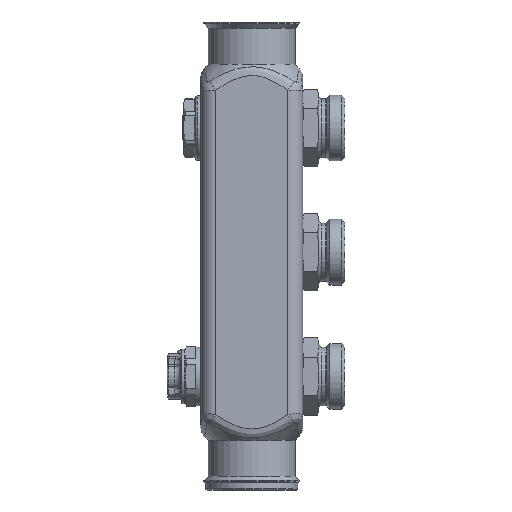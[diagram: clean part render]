
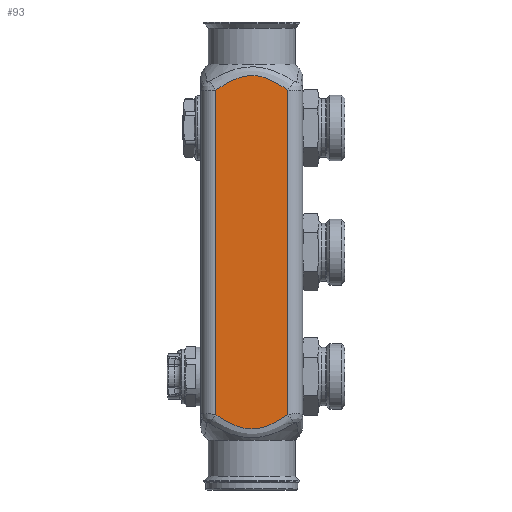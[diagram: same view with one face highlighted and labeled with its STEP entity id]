
A CAD part, left-side view. The second image highlights one B-rep face of the part: STEP entity #93.
In plain terms, the highlighted planar face has unit normal (-1, 0, 0).
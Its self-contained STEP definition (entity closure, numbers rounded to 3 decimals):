
#93=ADVANCED_FACE('',(#1398),#1400,.T.);
#1398=FACE_BOUND('',#1399,.T.);
#1399=EDGE_LOOP('',(#10756,#10757,#10758,#10759));
#1400=PLANE('',#1401);
#1401=AXIS2_PLACEMENT_3D('',#1402,#1403,#1404);
#1402=CARTESIAN_POINT('',(-20.,14.5,-76.));
#1403=DIRECTION('',(-1.,0.,0.));
#1404=DIRECTION('',(0.,-1.,0.));
#10756=ORIENTED_EDGE('',*,*,#14500,.F.);
#10757=ORIENTED_EDGE('',*,*,#14501,.F.);
#10758=ORIENTED_EDGE('',*,*,#14502,.F.);
#10759=ORIENTED_EDGE('',*,*,#14462,.T.);
#14462=EDGE_CURVE('',#16187,#16185,#16188,.T.);
#14500=EDGE_CURVE('',#16253,#16185,#16254,.T.);
#14501=EDGE_CURVE('',#16255,#16253,#16256,.T.);
#14502=EDGE_CURVE('',#16187,#16255,#16257,.T.);
#16185=VERTEX_POINT('',#19201);
#16187=VERTEX_POINT('',#19234);
#16188=LINE('',#19235,#19236);
#16253=VERTEX_POINT('',#19768);
#16254=B_SPLINE_CURVE_WITH_KNOTS('',3,
(#19769,#19770,#19771,#19772,#19773,#19774,#19775,#19776,#19777,#19778,#19779,#19780,
#19781,#19782,#19783,#19784,#19785,#19786,#19787,#19788,#19789,#19790,#19791,#19792),
.UNSPECIFIED.,.F.,.F.,
(4,1,1,1,1,1,1,1,1,1,1,1,1,1,1,1,1,1,1,1,1,4),
(0.,0.067,0.126,0.177,0.229,0.282,
0.333,0.38,0.422,0.461,0.5,
0.538,0.579,0.624,0.674,0.728,
0.78,0.832,0.883,0.936,0.975,
1.),
.UNSPECIFIED.);
#16255=VERTEX_POINT('',#19793);
#16256=LINE('',#19794,#19795);
#16257=B_SPLINE_CURVE_WITH_KNOTS('',3,
(#19797,#19798,#19799,#19800,#19801,#19802,#19803,#19804,#19805,#19806,#19807,#19808,
#19809,#19810,#19811,#19812,#19813,#19814,#19815,#19816,#19817,#19818,#19819,#19820),
.UNSPECIFIED.,.F.,.F.,
(4,1,1,1,1,1,1,1,1,1,1,1,1,1,1,1,1,1,1,1,1,4),
(0.,0.067,0.126,0.177,0.229,0.282,
0.333,0.38,0.422,0.461,0.5,
0.538,0.579,0.624,0.674,0.728,
0.78,0.832,0.883,0.936,0.975,
1.),
.UNSPECIFIED.);
#19201=CARTESIAN_POINT('',(-20.,-14.5,65.316));
#19234=CARTESIAN_POINT('',(-20.,-14.5,-65.316));
#19235=CARTESIAN_POINT('',(-20.,-14.5,-65.316));
#19236=VECTOR('',#19237,1.);
#19237=DIRECTION('',(0.,0.,1.));
#19768=CARTESIAN_POINT('',(-20.,14.5,65.316));
#19769=CARTESIAN_POINT('',(-20.,14.5,65.316));
#19770=CARTESIAN_POINT('',(-20.,13.894,65.737));
#19771=CARTESIAN_POINT('',(-20.,12.751,66.507));
#19772=CARTESIAN_POINT('',(-20.,11.115,67.523));
#19773=CARTESIAN_POINT('',(-20.,9.596,68.386));
#19774=CARTESIAN_POINT('',(-20.,8.102,69.148));
#19775=CARTESIAN_POINT('',(-20.,6.589,69.815));
#19776=CARTESIAN_POINT('',(-20.,5.102,70.355));
#19777=CARTESIAN_POINT('',(-20.,3.708,70.746));
#19778=CARTESIAN_POINT('',(-20.,2.415,71.002));
#19779=CARTESIAN_POINT('',(-20.,1.196,71.147));
#19780=CARTESIAN_POINT('',(-20.,0.013,71.194));
#19781=CARTESIAN_POINT('',(-20.,-1.184,71.148));
#19782=CARTESIAN_POINT('',(-20.,-2.447,70.999));
#19783=CARTESIAN_POINT('',(-20.,-3.824,70.72));
#19784=CARTESIAN_POINT('',(-20.,-5.311,70.289));
#19785=CARTESIAN_POINT('',(-20.,-6.841,69.712));
#19786=CARTESIAN_POINT('',(-20.,-8.369,69.019));
#19787=CARTESIAN_POINT('',(-20.,-9.844,68.251));
#19788=CARTESIAN_POINT('',(-20.,-11.312,67.404));
#19789=CARTESIAN_POINT('',(-20.,-12.628,66.579));
#19790=CARTESIAN_POINT('',(-20.,-13.697,65.87));
#19791=CARTESIAN_POINT('',(-20.,-14.272,65.474));
#19792=CARTESIAN_POINT('',(-20.,-14.5,65.316));
#19793=CARTESIAN_POINT('',(-20.,14.5,-65.316));
#19794=CARTESIAN_POINT('',(-20.,14.5,-65.316));
#19795=VECTOR('',#19796,1.);
#19796=DIRECTION('',(0.,0.,1.));
#19797=CARTESIAN_POINT('',(-20.,-14.5,-65.316));
#19798=CARTESIAN_POINT('',(-20.,-13.894,-65.737));
#19799=CARTESIAN_POINT('',(-20.,-12.751,-66.507));
#19800=CARTESIAN_POINT('',(-20.,-11.115,-67.523));
#19801=CARTESIAN_POINT('',(-20.,-9.596,-68.386));
#19802=CARTESIAN_POINT('',(-20.,-8.102,-69.148));
#19803=CARTESIAN_POINT('',(-20.,-6.589,-69.815));
#19804=CARTESIAN_POINT('',(-20.,-5.102,-70.355));
#19805=CARTESIAN_POINT('',(-20.,-3.708,-70.746));
#19806=CARTESIAN_POINT('',(-20.,-2.415,-71.002));
#19807=CARTESIAN_POINT('',(-20.,-1.196,-71.147));
#19808=CARTESIAN_POINT('',(-20.,-0.013,-71.194));
#19809=CARTESIAN_POINT('',(-20.,1.184,-71.148));
#19810=CARTESIAN_POINT('',(-20.,2.447,-70.999));
#19811=CARTESIAN_POINT('',(-20.,3.824,-70.72));
#19812=CARTESIAN_POINT('',(-20.,5.311,-70.289));
#19813=CARTESIAN_POINT('',(-20.,6.841,-69.712));
#19814=CARTESIAN_POINT('',(-20.,8.369,-69.019));
#19815=CARTESIAN_POINT('',(-20.,9.844,-68.251));
#19816=CARTESIAN_POINT('',(-20.,11.312,-67.404));
#19817=CARTESIAN_POINT('',(-20.,12.628,-66.579));
#19818=CARTESIAN_POINT('',(-20.,13.697,-65.87));
#19819=CARTESIAN_POINT('',(-20.,14.272,-65.474));
#19820=CARTESIAN_POINT('',(-20.,14.5,-65.316));
